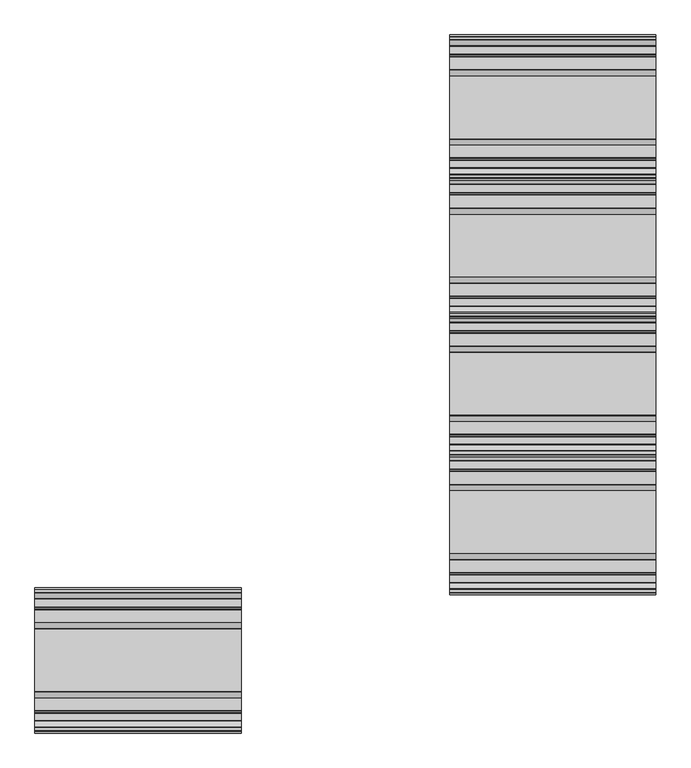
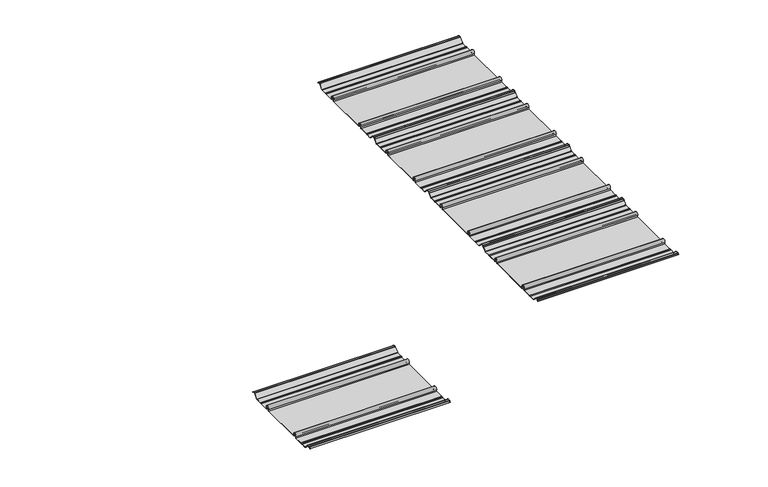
"""IFC4 building model written with IfcOpenShell, lengths in millimetres: proxy geometry, Xlath : Xlath."""

from ifc_helpers import new_model, si_unit, point, frame, frame_2d, origin, place, context, project, spatial, polyline, circle_curve, trimmed, segment, composite_curve, outline, extrude, source, transform, mapped, element, save


def generic_models_857969cb(model_context):
    return source(origin(), model_context, "Body", "SweptSolid", [
        extrude(outline(composite_curve([segment(polyline([(-1629.621536, 17.692427), (-1625.6, 13.8209287), (-1626.1628134, 13.2581153), (-1630.4173305, 17.3539026)]), True, "CONTINUOUS"), segment(trimmed(circle_curve(frame_2d((-1632.2934261, 15.4051)), 2.7051), [point((-1630.4173305, 17.3539026))], [point((-1632.2934261, 18.1102))], True, "CARTESIAN"), True, "CONTINUOUS"), segment(polyline([(-1632.2934261, 18.1102), (-1639.4817457, 18.1102)]), True, "CONTINUOUS"), segment(trimmed(circle_curve(frame_2d((-1639.4817457, 15.4051)), 2.7051), [point((-1639.4817457, 18.1102))], [point((-1641.4059623, 17.3064039))], True, "CARTESIAN"), True, "CONTINUOUS"), segment(polyline([(-1641.4059623, 17.3064039), (-1657.5741011, 0.9434226)]), True, "CONTINUOUS"), segment(trimmed(circle_curve(frame_2d((-1659.8325712, 3.175)), 3.175), [point((-1657.5741011, 0.9434226))], [point((-1659.8325712, 0.0))], False, "CARTESIAN"), True, "CONTINUOUS"), segment(polyline([(-1659.8325712, 0.0), (-1682.9486405, 0.0)]), True, "CONTINUOUS"), segment(trimmed(circle_curve(frame_2d((-1682.9486405, 3.175)), 3.175), [point((-1682.9486405, 0.0))], [point((-1684.9419174, 0.70367))], False, "CARTESIAN"), True, "CONTINUOUS"), segment(trimmed(circle_curve(frame_2d((-1686.9351943, -1.7676601)), 3.175), [point((-1684.9419174, 0.70367))], [point((-1688.9284712, 0.70367))], True, "CARTESIAN"), True, "CONTINUOUS"), segment(trimmed(circle_curve(frame_2d((-1690.9217481, 3.175)), 3.175), [point((-1688.9284712, 0.70367))], [point((-1690.9217481, 0.0))], False, "CARTESIAN"), True, "CONTINUOUS"), segment(polyline([(-1690.9217481, 0.0), (-1728.19972, 0.0)]), True, "CONTINUOUS"), segment(trimmed(circle_curve(frame_2d((-1728.19972, 3.3362305)), 3.3362305), [point((-1728.19972, 0.0))], [point((-1730.8911698, 5.3076593))], False, "CARTESIAN"), True, "CONTINUOUS"), segment(trimmed(circle_curve(frame_2d((-1737.4031627, 10.0775533)), 8.0720469), [point((-1730.8911698, 5.3076593))], [point((-1743.9151555, 5.3076593))], True, "CARTESIAN"), True, "CONTINUOUS"), segment(trimmed(circle_curve(frame_2d((-1746.6066054, 3.3362305)), 3.3362305), [point((-1743.9151555, 5.3076593))], [point((-1746.6066054, 0.0))], False, "CARTESIAN"), True, "CONTINUOUS"), segment(polyline([(-1746.6066054, 0.0), (-1931.6308946, 0.0)]), True, "CONTINUOUS"), segment(trimmed(circle_curve(frame_2d((-1931.6308946, 3.3362305)), 3.3362305), [point((-1931.6308946, 0.0))], [point((-1934.3223445, 5.3076593))], False, "CARTESIAN"), True, "CONTINUOUS"), segment(trimmed(circle_curve(frame_2d((-1940.8343373, 10.0775533)), 8.0720469), [point((-1934.3223445, 5.3076593))], [point((-1947.3463302, 5.3076593))], True, "CARTESIAN"), True, "CONTINUOUS"), segment(trimmed(circle_curve(frame_2d((-1950.03778, 3.3362305)), 3.3362305), [point((-1947.3463302, 5.3076593))], [point((-1950.03778, 0.0))], False, "CARTESIAN"), True, "CONTINUOUS"), segment(polyline([(-1950.03778, 0.0), (-1987.3157519, 0.0)]), True, "CONTINUOUS"), segment(trimmed(circle_curve(frame_2d((-1987.3157519, 3.175)), 3.175), [point((-1987.3157519, 0.0))], [point((-1989.3090288, 0.70367))], False, "CARTESIAN"), True, "CONTINUOUS"), segment(trimmed(circle_curve(frame_2d((-1991.3023057, -1.7676601)), 3.175), [point((-1989.3090288, 0.70367))], [point((-1993.2955826, 0.70367))], True, "CARTESIAN"), True, "CONTINUOUS"), segment(trimmed(circle_curve(frame_2d((-1995.2888595, 3.175)), 3.175), [point((-1993.2955826, 0.70367))], [point((-1995.2888595, 0.0))], False, "CARTESIAN"), True, "CONTINUOUS"), segment(polyline([(-1995.2888595, 0.0), (-2016.6183557, 0.0)]), True, "CONTINUOUS"), segment(trimmed(circle_curve(frame_2d((-2016.6183557, 3.175)), 3.175), [point((-2016.6183557, 0.0))], [point((-2018.8768259, 0.9434226))], False, "CARTESIAN"), True, "CONTINUOUS"), segment(polyline([(-2018.8768259, 0.9434226), (-2035.5092693, 17.7763039)]), True, "CONTINUOUS"), segment(trimmed(circle_curve(frame_2d((-2037.4334859, 15.875)), 2.7051), [point((-2035.5092693, 17.7763039))], [point((-2037.4334859, 18.5801))], True, "CARTESIAN"), True, "CONTINUOUS"), segment(polyline([(-2037.4334859, 18.5801), (-2045.9440739, 18.5801)]), True, "CONTINUOUS"), segment(trimmed(circle_curve(frame_2d((-2045.9440739, 15.875)), 2.7051), [point((-2045.9440739, 18.5801))], [point((-2047.8201695, 17.8238026))], True, "CARTESIAN"), True, "CONTINUOUS"), segment(polyline([(-2047.8201695, 17.8238026), (-2052.0855845, 13.717524), (-2052.6483979, 14.2803374), (-2048.615964, 18.162327)]), True, "CONTINUOUS"), segment(trimmed(circle_curve(frame_2d((-2046.4139739, 15.875)), 3.175), [point((-2048.615964, 18.162327))], [point((-2046.4139739, 19.05))], False, "CARTESIAN"), True, "CONTINUOUS"), segment(polyline([(-2046.4139739, 19.05), (-2037.4334859, 19.05)]), True, "CONTINUOUS"), segment(trimmed(circle_curve(frame_2d((-2037.4334859, 15.875)), 3.175), [point((-2037.4334859, 19.05))], [point((-2035.1750157, 18.1065774))], False, "CARTESIAN"), True, "CONTINUOUS"), segment(polyline([(-2035.1750157, 18.1065774), (-2018.5425723, 1.2736961)]), True, "CONTINUOUS"), segment(trimmed(circle_curve(frame_2d((-2016.6183557, 3.175)), 2.7051), [point((-2018.5425723, 1.2736961))], [point((-2016.6183557, 0.4699))], True, "CARTESIAN"), True, "CONTINUOUS"), segment(polyline([(-2016.6183557, 0.4699), (-1995.4514296, 0.4699)]), True, "CONTINUOUS"), segment(trimmed(circle_curve(frame_2d((-1995.4514296, 3.6449)), 3.175), [point((-1995.4514296, 0.4699))], [point((-1993.5198077, 1.1250862))], True, "CARTESIAN"), True, "CONTINUOUS"), segment(trimmed(circle_curve(frame_2d((-1991.3023057, -1.7676601)), 3.6449), [point((-1993.5198077, 1.1250862))], [point((-1989.0848037, 1.1250862))], False, "CARTESIAN"), True, "CONTINUOUS"), segment(trimmed(circle_curve(frame_2d((-1987.1531818, 3.6449)), 3.175), [point((-1989.0848037, 1.1250862))], [point((-1987.1531818, 0.4699))], True, "CARTESIAN"), True, "CONTINUOUS"), segment(polyline([(-1987.1531818, 0.4699), (-1950.03778, 0.4699)]), True, "CONTINUOUS"), segment(trimmed(circle_curve(frame_2d((-1950.03778, 3.3362305)), 2.8663305), [point((-1950.03778, 0.4699))], [point((-1947.7254144, 5.0299883))], True, "CARTESIAN"), True, "CONTINUOUS"), segment(trimmed(circle_curve(frame_2d((-1940.8343373, 10.0775533)), 8.5419469), [point((-1947.7254144, 5.0299883))], [point((-1933.9432603, 5.0299883))], False, "CARTESIAN"), True, "CONTINUOUS"), segment(trimmed(circle_curve(frame_2d((-1931.6308946, 3.3362305)), 2.8663305), [point((-1933.9432603, 5.0299883))], [point((-1931.6308946, 0.4699))], True, "CARTESIAN"), True, "CONTINUOUS"), segment(polyline([(-1931.6308946, 0.4699), (-1746.6066054, 0.4699)]), True, "CONTINUOUS"), segment(trimmed(circle_curve(frame_2d((-1746.6066054, 3.3362305)), 2.8663305), [point((-1746.6066054, 0.4699))], [point((-1744.2942397, 5.0299883))], True, "CARTESIAN"), True, "CONTINUOUS"), segment(trimmed(circle_curve(frame_2d((-1737.4031627, 10.0775533)), 8.5419469), [point((-1744.2942397, 5.0299883))], [point((-1730.5120856, 5.0299883))], False, "CARTESIAN"), True, "CONTINUOUS"), segment(trimmed(circle_curve(frame_2d((-1728.19972, 3.3362305)), 2.8663305), [point((-1730.5120856, 5.0299883))], [point((-1728.19972, 0.4699))], True, "CARTESIAN"), True, "CONTINUOUS"), segment(polyline([(-1728.19972, 0.4699), (-1691.0843182, 0.4699)]), True, "CONTINUOUS"), segment(trimmed(circle_curve(frame_2d((-1691.0843182, 3.6449)), 3.175), [point((-1691.0843182, 0.4699))], [point((-1689.1526963, 1.1250862))], True, "CARTESIAN"), True, "CONTINUOUS"), segment(trimmed(circle_curve(frame_2d((-1686.9351943, -1.7676601)), 3.6449), [point((-1689.1526963, 1.1250862))], [point((-1684.7176923, 1.1250862))], False, "CARTESIAN"), True, "CONTINUOUS"), segment(trimmed(circle_curve(frame_2d((-1682.7860704, 3.6449)), 3.175), [point((-1684.7176923, 1.1250862))], [point((-1682.7860704, 0.4699))], True, "CARTESIAN"), True, "CONTINUOUS"), segment(polyline([(-1682.7860704, 0.4699), (-1659.8325712, 0.4699)]), True, "CONTINUOUS"), segment(trimmed(circle_curve(frame_2d((-1659.8325712, 3.175)), 2.7051), [point((-1659.8325712, 0.4699))], [point((-1657.9083547, 1.2736961))], True, "CARTESIAN"), True, "CONTINUOUS"), segment(polyline([(-1657.9083547, 1.2736961), (-1641.7402159, 17.6366774)]), True, "CONTINUOUS"), segment(trimmed(circle_curve(frame_2d((-1639.4817457, 15.4051)), 3.175), [point((-1641.7402159, 17.6366774))], [point((-1639.4817457, 18.5801))], False, "CARTESIAN"), True, "CONTINUOUS"), segment(polyline([(-1639.4817457, 18.5801), (-1631.8235261, 18.5801)]), True, "CONTINUOUS"), segment(trimmed(circle_curve(frame_2d((-1631.8235261, 15.4051)), 3.175), [point((-1631.8235261, 18.5801))], [point((-1629.621536, 17.692427))], False, "CARTESIAN"), True, "CONTINUOUS")], self_intersect=False)), frame((0.0, 0.0, 0.0), z_axis=(1.0, 0.0, 0.0), x_axis=(0.0, 1.0, 0.0)), (0.0, 0.0, 1.0), 606.425),
        extrude(outline(composite_curve([segment(polyline([(-816.821536, 17.692427), (-812.8, 13.8209287), (-813.3628134, 13.2581153), (-817.6173305, 17.3539026)]), True, "CONTINUOUS"), segment(trimmed(circle_curve(frame_2d((-819.4934261, 15.4051)), 2.7051), [point((-817.6173305, 17.3539026))], [point((-819.4934261, 18.1102))], True, "CARTESIAN"), True, "CONTINUOUS"), segment(polyline([(-819.4934261, 18.1102), (-826.6817457, 18.1102)]), True, "CONTINUOUS"), segment(trimmed(circle_curve(frame_2d((-826.6817457, 15.4051)), 2.7051), [point((-826.6817457, 18.1102))], [point((-828.6059623, 17.3064039))], True, "CARTESIAN"), True, "CONTINUOUS"), segment(polyline([(-828.6059623, 17.3064039), (-844.7741011, 0.9434226)]), True, "CONTINUOUS"), segment(trimmed(circle_curve(frame_2d((-847.0325712, 3.175)), 3.175), [point((-844.7741011, 0.9434226))], [point((-847.0325712, 0.0))], False, "CARTESIAN"), True, "CONTINUOUS"), segment(polyline([(-847.0325712, 0.0), (-870.1486405, 0.0)]), True, "CONTINUOUS"), segment(trimmed(circle_curve(frame_2d((-870.1486405, 3.175)), 3.175), [point((-870.1486405, 0.0))], [point((-872.1419174, 0.70367))], False, "CARTESIAN"), True, "CONTINUOUS"), segment(trimmed(circle_curve(frame_2d((-874.1351943, -1.7676601)), 3.175), [point((-872.1419174, 0.70367))], [point((-876.1284712, 0.70367))], True, "CARTESIAN"), True, "CONTINUOUS"), segment(trimmed(circle_curve(frame_2d((-878.1217481, 3.175)), 3.175), [point((-876.1284712, 0.70367))], [point((-878.1217481, 0.0))], False, "CARTESIAN"), True, "CONTINUOUS"), segment(polyline([(-878.1217481, 0.0), (-915.39972, 0.0)]), True, "CONTINUOUS"), segment(trimmed(circle_curve(frame_2d((-915.39972, 3.3362305)), 3.3362305), [point((-915.39972, 0.0))], [point((-918.0911698, 5.3076593))], False, "CARTESIAN"), True, "CONTINUOUS"), segment(trimmed(circle_curve(frame_2d((-924.6031627, 10.0775533)), 8.0720469), [point((-918.0911698, 5.3076593))], [point((-931.1151555, 5.3076593))], True, "CARTESIAN"), True, "CONTINUOUS"), segment(trimmed(circle_curve(frame_2d((-933.8066054, 3.3362305)), 3.3362305), [point((-931.1151555, 5.3076593))], [point((-933.8066054, 0.0))], False, "CARTESIAN"), True, "CONTINUOUS"), segment(polyline([(-933.8066054, 0.0), (-1118.8308946, 0.0)]), True, "CONTINUOUS"), segment(trimmed(circle_curve(frame_2d((-1118.8308946, 3.3362305)), 3.3362305), [point((-1118.8308946, 0.0))], [point((-1121.5223445, 5.3076593))], False, "CARTESIAN"), True, "CONTINUOUS"), segment(trimmed(circle_curve(frame_2d((-1128.0343373, 10.0775533)), 8.0720469), [point((-1121.5223445, 5.3076593))], [point((-1134.5463302, 5.3076593))], True, "CARTESIAN"), True, "CONTINUOUS"), segment(trimmed(circle_curve(frame_2d((-1137.23778, 3.3362305)), 3.3362305), [point((-1134.5463302, 5.3076593))], [point((-1137.23778, 0.0))], False, "CARTESIAN"), True, "CONTINUOUS"), segment(polyline([(-1137.23778, 0.0), (-1174.5157519, 0.0)]), True, "CONTINUOUS"), segment(trimmed(circle_curve(frame_2d((-1174.5157519, 3.175)), 3.175), [point((-1174.5157519, 0.0))], [point((-1176.5090288, 0.70367))], False, "CARTESIAN"), True, "CONTINUOUS"), segment(trimmed(circle_curve(frame_2d((-1178.5023057, -1.7676601)), 3.175), [point((-1176.5090288, 0.70367))], [point((-1180.4955826, 0.70367))], True, "CARTESIAN"), True, "CONTINUOUS"), segment(trimmed(circle_curve(frame_2d((-1182.4888595, 3.175)), 3.175), [point((-1180.4955826, 0.70367))], [point((-1182.4888595, 0.0))], False, "CARTESIAN"), True, "CONTINUOUS"), segment(polyline([(-1182.4888595, 0.0), (-1203.8183557, 0.0)]), True, "CONTINUOUS"), segment(trimmed(circle_curve(frame_2d((-1203.8183557, 3.175)), 3.175), [point((-1203.8183557, 0.0))], [point((-1206.0768259, 0.9434226))], False, "CARTESIAN"), True, "CONTINUOUS"), segment(polyline([(-1206.0768259, 0.9434226), (-1222.7092693, 17.7763039)]), True, "CONTINUOUS"), segment(trimmed(circle_curve(frame_2d((-1224.6334859, 15.875)), 2.7051), [point((-1222.7092693, 17.7763039))], [point((-1224.6334859, 18.5801))], True, "CARTESIAN"), True, "CONTINUOUS"), segment(polyline([(-1224.6334859, 18.5801), (-1233.1440739, 18.5801)]), True, "CONTINUOUS"), segment(trimmed(circle_curve(frame_2d((-1233.1440739, 15.875)), 2.7051), [point((-1233.1440739, 18.5801))], [point((-1235.0201695, 17.8238026))], True, "CARTESIAN"), True, "CONTINUOUS"), segment(polyline([(-1235.0201695, 17.8238026), (-1239.2855845, 13.717524), (-1239.8483979, 14.2803374), (-1235.815964, 18.162327)]), True, "CONTINUOUS"), segment(trimmed(circle_curve(frame_2d((-1233.6139739, 15.875)), 3.175), [point((-1235.815964, 18.162327))], [point((-1233.6139739, 19.05))], False, "CARTESIAN"), True, "CONTINUOUS"), segment(polyline([(-1233.6139739, 19.05), (-1224.6334859, 19.05)]), True, "CONTINUOUS"), segment(trimmed(circle_curve(frame_2d((-1224.6334859, 15.875)), 3.175), [point((-1224.6334859, 19.05))], [point((-1222.3750157, 18.1065774))], False, "CARTESIAN"), True, "CONTINUOUS"), segment(polyline([(-1222.3750157, 18.1065774), (-1205.7425723, 1.2736961)]), True, "CONTINUOUS"), segment(trimmed(circle_curve(frame_2d((-1203.8183557, 3.175)), 2.7051), [point((-1205.7425723, 1.2736961))], [point((-1203.8183557, 0.4699))], True, "CARTESIAN"), True, "CONTINUOUS"), segment(polyline([(-1203.8183557, 0.4699), (-1182.6514296, 0.4699)]), True, "CONTINUOUS"), segment(trimmed(circle_curve(frame_2d((-1182.6514296, 3.6449)), 3.175), [point((-1182.6514296, 0.4699))], [point((-1180.7198077, 1.1250862))], True, "CARTESIAN"), True, "CONTINUOUS"), segment(trimmed(circle_curve(frame_2d((-1178.5023057, -1.7676601)), 3.6449), [point((-1180.7198077, 1.1250862))], [point((-1176.2848037, 1.1250862))], False, "CARTESIAN"), True, "CONTINUOUS"), segment(trimmed(circle_curve(frame_2d((-1174.3531818, 3.6449)), 3.175), [point((-1176.2848037, 1.1250862))], [point((-1174.3531818, 0.4699))], True, "CARTESIAN"), True, "CONTINUOUS"), segment(polyline([(-1174.3531818, 0.4699), (-1137.23778, 0.4699)]), True, "CONTINUOUS"), segment(trimmed(circle_curve(frame_2d((-1137.23778, 3.3362305)), 2.8663305), [point((-1137.23778, 0.4699))], [point((-1134.9254144, 5.0299883))], True, "CARTESIAN"), True, "CONTINUOUS"), segment(trimmed(circle_curve(frame_2d((-1128.0343373, 10.0775533)), 8.5419469), [point((-1134.9254144, 5.0299883))], [point((-1121.1432603, 5.0299883))], False, "CARTESIAN"), True, "CONTINUOUS"), segment(trimmed(circle_curve(frame_2d((-1118.8308946, 3.3362305)), 2.8663305), [point((-1121.1432603, 5.0299883))], [point((-1118.8308946, 0.4699))], True, "CARTESIAN"), True, "CONTINUOUS"), segment(polyline([(-1118.8308946, 0.4699), (-933.8066054, 0.4699)]), True, "CONTINUOUS"), segment(trimmed(circle_curve(frame_2d((-933.8066054, 3.3362305)), 2.8663305), [point((-933.8066054, 0.4699))], [point((-931.4942397, 5.0299883))], True, "CARTESIAN"), True, "CONTINUOUS"), segment(trimmed(circle_curve(frame_2d((-924.6031627, 10.0775533)), 8.5419469), [point((-931.4942397, 5.0299883))], [point((-917.7120856, 5.0299883))], False, "CARTESIAN"), True, "CONTINUOUS"), segment(trimmed(circle_curve(frame_2d((-915.39972, 3.3362305)), 2.8663305), [point((-917.7120856, 5.0299883))], [point((-915.39972, 0.4699))], True, "CARTESIAN"), True, "CONTINUOUS"), segment(polyline([(-915.39972, 0.4699), (-878.2843182, 0.4699)]), True, "CONTINUOUS"), segment(trimmed(circle_curve(frame_2d((-878.2843182, 3.6449)), 3.175), [point((-878.2843182, 0.4699))], [point((-876.3526963, 1.1250862))], True, "CARTESIAN"), True, "CONTINUOUS"), segment(trimmed(circle_curve(frame_2d((-874.1351943, -1.7676601)), 3.6449), [point((-876.3526963, 1.1250862))], [point((-871.9176923, 1.1250862))], False, "CARTESIAN"), True, "CONTINUOUS"), segment(trimmed(circle_curve(frame_2d((-869.9860704, 3.6449)), 3.175), [point((-871.9176923, 1.1250862))], [point((-869.9860704, 0.4699))], True, "CARTESIAN"), True, "CONTINUOUS"), segment(polyline([(-869.9860704, 0.4699), (-847.0325712, 0.4699)]), True, "CONTINUOUS"), segment(trimmed(circle_curve(frame_2d((-847.0325712, 3.175)), 2.7051), [point((-847.0325712, 0.4699))], [point((-845.1083547, 1.2736961))], True, "CARTESIAN"), True, "CONTINUOUS"), segment(polyline([(-845.1083547, 1.2736961), (-828.9402159, 17.6366774)]), True, "CONTINUOUS"), segment(trimmed(circle_curve(frame_2d((-826.6817457, 15.4051)), 3.175), [point((-828.9402159, 17.6366774))], [point((-826.6817457, 18.5801))], False, "CARTESIAN"), True, "CONTINUOUS"), segment(polyline([(-826.6817457, 18.5801), (-819.0235261, 18.5801)]), True, "CONTINUOUS"), segment(trimmed(circle_curve(frame_2d((-819.0235261, 15.4051)), 3.175), [point((-819.0235261, 18.5801))], [point((-816.821536, 17.692427))], False, "CARTESIAN"), True, "CONTINUOUS")], self_intersect=False)), frame((1219.2, 0.0, 0.0), z_axis=(1.0, 0.0, 0.0), x_axis=(0.0, 1.0, 0.0)), (0.0, 0.0, 1.0), 606.425),
        extrude(outline(composite_curve([segment(polyline([(-410.421536, 17.692427), (-406.4, 13.8209287), (-406.9628134, 13.2581153), (-411.2173305, 17.3539026)]), True, "CONTINUOUS"), segment(trimmed(circle_curve(frame_2d((-413.0934261, 15.4051)), 2.7051), [point((-411.2173305, 17.3539026))], [point((-413.0934261, 18.1102))], True, "CARTESIAN"), True, "CONTINUOUS"), segment(polyline([(-413.0934261, 18.1102), (-420.2817457, 18.1102)]), True, "CONTINUOUS"), segment(trimmed(circle_curve(frame_2d((-420.2817457, 15.4051)), 2.7051), [point((-420.2817457, 18.1102))], [point((-422.2059623, 17.3064039))], True, "CARTESIAN"), True, "CONTINUOUS"), segment(polyline([(-422.2059623, 17.3064039), (-438.3741011, 0.9434226)]), True, "CONTINUOUS"), segment(trimmed(circle_curve(frame_2d((-440.6325712, 3.175)), 3.175), [point((-438.3741011, 0.9434226))], [point((-440.6325712, 0.0))], False, "CARTESIAN"), True, "CONTINUOUS"), segment(polyline([(-440.6325712, 0.0), (-463.7486405, 0.0)]), True, "CONTINUOUS"), segment(trimmed(circle_curve(frame_2d((-463.7486405, 3.175)), 3.175), [point((-463.7486405, 0.0))], [point((-465.7419174, 0.70367))], False, "CARTESIAN"), True, "CONTINUOUS"), segment(trimmed(circle_curve(frame_2d((-467.7351943, -1.7676601)), 3.175), [point((-465.7419174, 0.70367))], [point((-469.7284712, 0.70367))], True, "CARTESIAN"), True, "CONTINUOUS"), segment(trimmed(circle_curve(frame_2d((-471.7217481, 3.175)), 3.175), [point((-469.7284712, 0.70367))], [point((-471.7217481, 0.0))], False, "CARTESIAN"), True, "CONTINUOUS"), segment(polyline([(-471.7217481, 0.0), (-508.99972, 0.0)]), True, "CONTINUOUS"), segment(trimmed(circle_curve(frame_2d((-508.99972, 3.3362305)), 3.3362305), [point((-508.99972, 0.0))], [point((-511.6911698, 5.3076593))], False, "CARTESIAN"), True, "CONTINUOUS"), segment(trimmed(circle_curve(frame_2d((-518.2031627, 10.0775533)), 8.0720469), [point((-511.6911698, 5.3076593))], [point((-524.7151555, 5.3076593))], True, "CARTESIAN"), True, "CONTINUOUS"), segment(trimmed(circle_curve(frame_2d((-527.4066054, 3.3362305)), 3.3362305), [point((-524.7151555, 5.3076593))], [point((-527.4066054, 0.0))], False, "CARTESIAN"), True, "CONTINUOUS"), segment(polyline([(-527.4066054, 0.0), (-712.4308946, 0.0)]), True, "CONTINUOUS"), segment(trimmed(circle_curve(frame_2d((-712.4308946, 3.3362305)), 3.3362305), [point((-712.4308946, 0.0))], [point((-715.1223445, 5.3076593))], False, "CARTESIAN"), True, "CONTINUOUS"), segment(trimmed(circle_curve(frame_2d((-721.6343373, 10.0775533)), 8.0720469), [point((-715.1223445, 5.3076593))], [point((-728.1463302, 5.3076593))], True, "CARTESIAN"), True, "CONTINUOUS"), segment(trimmed(circle_curve(frame_2d((-730.83778, 3.3362305)), 3.3362305), [point((-728.1463302, 5.3076593))], [point((-730.83778, 0.0))], False, "CARTESIAN"), True, "CONTINUOUS"), segment(polyline([(-730.83778, 0.0), (-768.1157519, 0.0)]), True, "CONTINUOUS"), segment(trimmed(circle_curve(frame_2d((-768.1157519, 3.175)), 3.175), [point((-768.1157519, 0.0))], [point((-770.1090288, 0.70367))], False, "CARTESIAN"), True, "CONTINUOUS"), segment(trimmed(circle_curve(frame_2d((-772.1023057, -1.7676601)), 3.175), [point((-770.1090288, 0.70367))], [point((-774.0955826, 0.70367))], True, "CARTESIAN"), True, "CONTINUOUS"), segment(trimmed(circle_curve(frame_2d((-776.0888595, 3.175)), 3.175), [point((-774.0955826, 0.70367))], [point((-776.0888595, 0.0))], False, "CARTESIAN"), True, "CONTINUOUS"), segment(polyline([(-776.0888595, 0.0), (-797.4183557, 0.0)]), True, "CONTINUOUS"), segment(trimmed(circle_curve(frame_2d((-797.4183557, 3.175)), 3.175), [point((-797.4183557, 0.0))], [point((-799.6768259, 0.9434226))], False, "CARTESIAN"), True, "CONTINUOUS"), segment(polyline([(-799.6768259, 0.9434226), (-816.3092693, 17.7763039)]), True, "CONTINUOUS"), segment(trimmed(circle_curve(frame_2d((-818.2334859, 15.875)), 2.7051), [point((-816.3092693, 17.7763039))], [point((-818.2334859, 18.5801))], True, "CARTESIAN"), True, "CONTINUOUS"), segment(polyline([(-818.2334859, 18.5801), (-826.7440739, 18.5801)]), True, "CONTINUOUS"), segment(trimmed(circle_curve(frame_2d((-826.7440739, 15.875)), 2.7051), [point((-826.7440739, 18.5801))], [point((-828.6201695, 17.8238026))], True, "CARTESIAN"), True, "CONTINUOUS"), segment(polyline([(-828.6201695, 17.8238026), (-832.8855845, 13.717524), (-833.4483979, 14.2803374), (-829.415964, 18.162327)]), True, "CONTINUOUS"), segment(trimmed(circle_curve(frame_2d((-827.2139739, 15.875)), 3.175), [point((-829.415964, 18.162327))], [point((-827.2139739, 19.05))], False, "CARTESIAN"), True, "CONTINUOUS"), segment(polyline([(-827.2139739, 19.05), (-818.2334859, 19.05)]), True, "CONTINUOUS"), segment(trimmed(circle_curve(frame_2d((-818.2334859, 15.875)), 3.175), [point((-818.2334859, 19.05))], [point((-815.9750157, 18.1065774))], False, "CARTESIAN"), True, "CONTINUOUS"), segment(polyline([(-815.9750157, 18.1065774), (-799.3425723, 1.2736961)]), True, "CONTINUOUS"), segment(trimmed(circle_curve(frame_2d((-797.4183557, 3.175)), 2.7051), [point((-799.3425723, 1.2736961))], [point((-797.4183557, 0.4699))], True, "CARTESIAN"), True, "CONTINUOUS"), segment(polyline([(-797.4183557, 0.4699), (-776.2514296, 0.4699)]), True, "CONTINUOUS"), segment(trimmed(circle_curve(frame_2d((-776.2514296, 3.6449)), 3.175), [point((-776.2514296, 0.4699))], [point((-774.3198077, 1.1250862))], True, "CARTESIAN"), True, "CONTINUOUS"), segment(trimmed(circle_curve(frame_2d((-772.1023057, -1.7676601)), 3.6449), [point((-774.3198077, 1.1250862))], [point((-769.8848037, 1.1250862))], False, "CARTESIAN"), True, "CONTINUOUS"), segment(trimmed(circle_curve(frame_2d((-767.9531818, 3.6449)), 3.175), [point((-769.8848037, 1.1250862))], [point((-767.9531818, 0.4699))], True, "CARTESIAN"), True, "CONTINUOUS"), segment(polyline([(-767.9531818, 0.4699), (-730.83778, 0.4699)]), True, "CONTINUOUS"), segment(trimmed(circle_curve(frame_2d((-730.83778, 3.3362305)), 2.8663305), [point((-730.83778, 0.4699))], [point((-728.5254144, 5.0299883))], True, "CARTESIAN"), True, "CONTINUOUS"), segment(trimmed(circle_curve(frame_2d((-721.6343373, 10.0775533)), 8.5419469), [point((-728.5254144, 5.0299883))], [point((-714.7432603, 5.0299883))], False, "CARTESIAN"), True, "CONTINUOUS"), segment(trimmed(circle_curve(frame_2d((-712.4308946, 3.3362305)), 2.8663305), [point((-714.7432603, 5.0299883))], [point((-712.4308946, 0.4699))], True, "CARTESIAN"), True, "CONTINUOUS"), segment(polyline([(-712.4308946, 0.4699), (-527.4066054, 0.4699)]), True, "CONTINUOUS"), segment(trimmed(circle_curve(frame_2d((-527.4066054, 3.3362305)), 2.8663305), [point((-527.4066054, 0.4699))], [point((-525.0942397, 5.0299883))], True, "CARTESIAN"), True, "CONTINUOUS"), segment(trimmed(circle_curve(frame_2d((-518.2031627, 10.0775533)), 8.5419469), [point((-525.0942397, 5.0299883))], [point((-511.3120856, 5.0299883))], False, "CARTESIAN"), True, "CONTINUOUS"), segment(trimmed(circle_curve(frame_2d((-508.99972, 3.3362305)), 2.8663305), [point((-511.3120856, 5.0299883))], [point((-508.99972, 0.4699))], True, "CARTESIAN"), True, "CONTINUOUS"), segment(polyline([(-508.99972, 0.4699), (-471.8843182, 0.4699)]), True, "CONTINUOUS"), segment(trimmed(circle_curve(frame_2d((-471.8843182, 3.6449)), 3.175), [point((-471.8843182, 0.4699))], [point((-469.9526963, 1.1250862))], True, "CARTESIAN"), True, "CONTINUOUS"), segment(trimmed(circle_curve(frame_2d((-467.7351943, -1.7676601)), 3.6449), [point((-469.9526963, 1.1250862))], [point((-465.5176923, 1.1250862))], False, "CARTESIAN"), True, "CONTINUOUS"), segment(trimmed(circle_curve(frame_2d((-463.5860704, 3.6449)), 3.175), [point((-465.5176923, 1.1250862))], [point((-463.5860704, 0.4699))], True, "CARTESIAN"), True, "CONTINUOUS"), segment(polyline([(-463.5860704, 0.4699), (-440.6325712, 0.4699)]), True, "CONTINUOUS"), segment(trimmed(circle_curve(frame_2d((-440.6325712, 3.175)), 2.7051), [point((-440.6325712, 0.4699))], [point((-438.7083547, 1.2736961))], True, "CARTESIAN"), True, "CONTINUOUS"), segment(polyline([(-438.7083547, 1.2736961), (-422.5402159, 17.6366774)]), True, "CONTINUOUS"), segment(trimmed(circle_curve(frame_2d((-420.2817457, 15.4051)), 3.175), [point((-422.5402159, 17.6366774))], [point((-420.2817457, 18.5801))], False, "CARTESIAN"), True, "CONTINUOUS"), segment(polyline([(-420.2817457, 18.5801), (-412.6235261, 18.5801)]), True, "CONTINUOUS"), segment(trimmed(circle_curve(frame_2d((-412.6235261, 15.4051)), 3.175), [point((-412.6235261, 18.5801))], [point((-410.421536, 17.692427))], False, "CARTESIAN"), True, "CONTINUOUS")], self_intersect=False)), frame((1219.2, 0.0, 0.0), z_axis=(1.0, 0.0, 0.0), x_axis=(0.0, 1.0, 0.0)), (0.0, 0.0, 1.0), 606.425),
        extrude(outline(composite_curve([segment(polyline([(-4.021536, 17.692427), (0.0, 13.8209287), (-0.5628134, 13.2581153), (-4.8173305, 17.3539026)]), True, "CONTINUOUS"), segment(trimmed(circle_curve(frame_2d((-6.6934261, 15.4051)), 2.7051), [point((-4.8173305, 17.3539026))], [point((-6.6934261, 18.1102))], True, "CARTESIAN"), True, "CONTINUOUS"), segment(polyline([(-6.6934261, 18.1102), (-13.8817457, 18.1102)]), True, "CONTINUOUS"), segment(trimmed(circle_curve(frame_2d((-13.8817457, 15.4051)), 2.7051), [point((-13.8817457, 18.1102))], [point((-15.8059623, 17.3064039))], True, "CARTESIAN"), True, "CONTINUOUS"), segment(polyline([(-15.8059623, 17.3064039), (-31.9741011, 0.9434226)]), True, "CONTINUOUS"), segment(trimmed(circle_curve(frame_2d((-34.2325712, 3.175)), 3.175), [point((-31.9741011, 0.9434226))], [point((-34.2325712, 0.0))], False, "CARTESIAN"), True, "CONTINUOUS"), segment(polyline([(-34.2325712, 0.0), (-57.3486405, 0.0)]), True, "CONTINUOUS"), segment(trimmed(circle_curve(frame_2d((-57.3486405, 3.175)), 3.175), [point((-57.3486405, 0.0))], [point((-59.3419174, 0.70367))], False, "CARTESIAN"), True, "CONTINUOUS"), segment(trimmed(circle_curve(frame_2d((-61.3351943, -1.7676601)), 3.175), [point((-59.3419174, 0.70367))], [point((-63.3284712, 0.70367))], True, "CARTESIAN"), True, "CONTINUOUS"), segment(trimmed(circle_curve(frame_2d((-65.3217481, 3.175)), 3.175), [point((-63.3284712, 0.70367))], [point((-65.3217481, 0.0))], False, "CARTESIAN"), True, "CONTINUOUS"), segment(polyline([(-65.3217481, 0.0), (-102.59972, 0.0)]), True, "CONTINUOUS"), segment(trimmed(circle_curve(frame_2d((-102.59972, 3.3362305)), 3.3362305), [point((-102.59972, 0.0))], [point((-105.2911698, 5.3076593))], False, "CARTESIAN"), True, "CONTINUOUS"), segment(trimmed(circle_curve(frame_2d((-111.8031627, 10.0775533)), 8.0720469), [point((-105.2911698, 5.3076593))], [point((-118.3151555, 5.3076593))], True, "CARTESIAN"), True, "CONTINUOUS"), segment(trimmed(circle_curve(frame_2d((-121.0066054, 3.3362305)), 3.3362305), [point((-118.3151555, 5.3076593))], [point((-121.0066054, 0.0))], False, "CARTESIAN"), True, "CONTINUOUS"), segment(polyline([(-121.0066054, 0.0), (-306.0308946, 0.0)]), True, "CONTINUOUS"), segment(trimmed(circle_curve(frame_2d((-306.0308946, 3.3362305)), 3.3362305), [point((-306.0308946, 0.0))], [point((-308.7223445, 5.3076593))], False, "CARTESIAN"), True, "CONTINUOUS"), segment(trimmed(circle_curve(frame_2d((-315.2343373, 10.0775533)), 8.0720469), [point((-308.7223445, 5.3076593))], [point((-321.7463302, 5.3076593))], True, "CARTESIAN"), True, "CONTINUOUS"), segment(trimmed(circle_curve(frame_2d((-324.43778, 3.3362305)), 3.3362305), [point((-321.7463302, 5.3076593))], [point((-324.43778, 0.0))], False, "CARTESIAN"), True, "CONTINUOUS"), segment(polyline([(-324.43778, 0.0), (-361.7157519, 0.0)]), True, "CONTINUOUS"), segment(trimmed(circle_curve(frame_2d((-361.7157519, 3.175)), 3.175), [point((-361.7157519, 0.0))], [point((-363.7090288, 0.70367))], False, "CARTESIAN"), True, "CONTINUOUS"), segment(trimmed(circle_curve(frame_2d((-365.7023057, -1.7676601)), 3.175), [point((-363.7090288, 0.70367))], [point((-367.6955826, 0.70367))], True, "CARTESIAN"), True, "CONTINUOUS"), segment(trimmed(circle_curve(frame_2d((-369.6888595, 3.175)), 3.175), [point((-367.6955826, 0.70367))], [point((-369.6888595, 0.0))], False, "CARTESIAN"), True, "CONTINUOUS"), segment(polyline([(-369.6888595, 0.0), (-391.0183557, 0.0)]), True, "CONTINUOUS"), segment(trimmed(circle_curve(frame_2d((-391.0183557, 3.175)), 3.175), [point((-391.0183557, 0.0))], [point((-393.2768259, 0.9434226))], False, "CARTESIAN"), True, "CONTINUOUS"), segment(polyline([(-393.2768259, 0.9434226), (-409.9092693, 17.7763039)]), True, "CONTINUOUS"), segment(trimmed(circle_curve(frame_2d((-411.8334859, 15.875)), 2.7051), [point((-409.9092693, 17.7763039))], [point((-411.8334859, 18.5801))], True, "CARTESIAN"), True, "CONTINUOUS"), segment(polyline([(-411.8334859, 18.5801), (-420.3440739, 18.5801)]), True, "CONTINUOUS"), segment(trimmed(circle_curve(frame_2d((-420.3440739, 15.875)), 2.7051), [point((-420.3440739, 18.5801))], [point((-422.2201695, 17.8238026))], True, "CARTESIAN"), True, "CONTINUOUS"), segment(polyline([(-422.2201695, 17.8238026), (-426.4855845, 13.717524), (-427.0483979, 14.2803374), (-423.015964, 18.162327)]), True, "CONTINUOUS"), segment(trimmed(circle_curve(frame_2d((-420.8139739, 15.875)), 3.175), [point((-423.015964, 18.162327))], [point((-420.8139739, 19.05))], False, "CARTESIAN"), True, "CONTINUOUS"), segment(polyline([(-420.8139739, 19.05), (-411.8334859, 19.05)]), True, "CONTINUOUS"), segment(trimmed(circle_curve(frame_2d((-411.8334859, 15.875)), 3.175), [point((-411.8334859, 19.05))], [point((-409.5750157, 18.1065774))], False, "CARTESIAN"), True, "CONTINUOUS"), segment(polyline([(-409.5750157, 18.1065774), (-392.9425723, 1.2736961)]), True, "CONTINUOUS"), segment(trimmed(circle_curve(frame_2d((-391.0183557, 3.175)), 2.7051), [point((-392.9425723, 1.2736961))], [point((-391.0183557, 0.4699))], True, "CARTESIAN"), True, "CONTINUOUS"), segment(polyline([(-391.0183557, 0.4699), (-369.8514296, 0.4699)]), True, "CONTINUOUS"), segment(trimmed(circle_curve(frame_2d((-369.8514296, 3.6449)), 3.175), [point((-369.8514296, 0.4699))], [point((-367.9198077, 1.1250862))], True, "CARTESIAN"), True, "CONTINUOUS"), segment(trimmed(circle_curve(frame_2d((-365.7023057, -1.7676601)), 3.6449), [point((-367.9198077, 1.1250862))], [point((-363.4848037, 1.1250862))], False, "CARTESIAN"), True, "CONTINUOUS"), segment(trimmed(circle_curve(frame_2d((-361.5531818, 3.6449)), 3.175), [point((-363.4848037, 1.1250862))], [point((-361.5531818, 0.4699))], True, "CARTESIAN"), True, "CONTINUOUS"), segment(polyline([(-361.5531818, 0.4699), (-324.43778, 0.4699)]), True, "CONTINUOUS"), segment(trimmed(circle_curve(frame_2d((-324.43778, 3.3362305)), 2.8663305), [point((-324.43778, 0.4699))], [point((-322.1254144, 5.0299883))], True, "CARTESIAN"), True, "CONTINUOUS"), segment(trimmed(circle_curve(frame_2d((-315.2343373, 10.0775533)), 8.5419469), [point((-322.1254144, 5.0299883))], [point((-308.3432603, 5.0299883))], False, "CARTESIAN"), True, "CONTINUOUS"), segment(trimmed(circle_curve(frame_2d((-306.0308946, 3.3362305)), 2.8663305), [point((-308.3432603, 5.0299883))], [point((-306.0308946, 0.4699))], True, "CARTESIAN"), True, "CONTINUOUS"), segment(polyline([(-306.0308946, 0.4699), (-121.0066054, 0.4699)]), True, "CONTINUOUS"), segment(trimmed(circle_curve(frame_2d((-121.0066054, 3.3362305)), 2.8663305), [point((-121.0066054, 0.4699))], [point((-118.6942397, 5.0299883))], True, "CARTESIAN"), True, "CONTINUOUS"), segment(trimmed(circle_curve(frame_2d((-111.8031627, 10.0775533)), 8.5419469), [point((-118.6942397, 5.0299883))], [point((-104.9120856, 5.0299883))], False, "CARTESIAN"), True, "CONTINUOUS"), segment(trimmed(circle_curve(frame_2d((-102.59972, 3.3362305)), 2.8663305), [point((-104.9120856, 5.0299883))], [point((-102.59972, 0.4699))], True, "CARTESIAN"), True, "CONTINUOUS"), segment(polyline([(-102.59972, 0.4699), (-65.4843182, 0.4699)]), True, "CONTINUOUS"), segment(trimmed(circle_curve(frame_2d((-65.4843182, 3.6449)), 3.175), [point((-65.4843182, 0.4699))], [point((-63.5526963, 1.1250862))], True, "CARTESIAN"), True, "CONTINUOUS"), segment(trimmed(circle_curve(frame_2d((-61.3351943, -1.7676601)), 3.6449), [point((-63.5526963, 1.1250862))], [point((-59.1176923, 1.1250862))], False, "CARTESIAN"), True, "CONTINUOUS"), segment(trimmed(circle_curve(frame_2d((-57.1860704, 3.6449)), 3.175), [point((-59.1176923, 1.1250862))], [point((-57.1860704, 0.4699))], True, "CARTESIAN"), True, "CONTINUOUS"), segment(polyline([(-57.1860704, 0.4699), (-34.2325712, 0.4699)]), True, "CONTINUOUS"), segment(trimmed(circle_curve(frame_2d((-34.2325712, 3.175)), 2.7051), [point((-34.2325712, 0.4699))], [point((-32.3083547, 1.2736961))], True, "CARTESIAN"), True, "CONTINUOUS"), segment(polyline([(-32.3083547, 1.2736961), (-16.1402159, 17.6366774)]), True, "CONTINUOUS"), segment(trimmed(circle_curve(frame_2d((-13.8817457, 15.4051)), 3.175), [point((-16.1402159, 17.6366774))], [point((-13.8817457, 18.5801))], False, "CARTESIAN"), True, "CONTINUOUS"), segment(polyline([(-13.8817457, 18.5801), (-6.2235261, 18.5801)]), True, "CONTINUOUS"), segment(trimmed(circle_curve(frame_2d((-6.2235261, 15.4051)), 3.175), [point((-6.2235261, 18.5801))], [point((-4.021536, 17.692427))], False, "CARTESIAN"), True, "CONTINUOUS")], self_intersect=False)), frame((1219.2, 0.0, 0.0), z_axis=(1.0, 0.0, 0.0), x_axis=(0.0, 1.0, 0.0)), (0.0, 0.0, 1.0), 606.425),
        extrude(outline(composite_curve([segment(polyline([(-1223.221536, 17.692427), (-1219.2, 13.8209287), (-1219.7628134, 13.2581153), (-1224.0173305, 17.3539026)]), True, "CONTINUOUS"), segment(trimmed(circle_curve(frame_2d((-1225.8934261, 15.4051)), 2.7051), [point((-1224.0173305, 17.3539026))], [point((-1225.8934261, 18.1102))], True, "CARTESIAN"), True, "CONTINUOUS"), segment(polyline([(-1225.8934261, 18.1102), (-1233.0817457, 18.1102)]), True, "CONTINUOUS"), segment(trimmed(circle_curve(frame_2d((-1233.0817457, 15.4051)), 2.7051), [point((-1233.0817457, 18.1102))], [point((-1235.0059623, 17.3064039))], True, "CARTESIAN"), True, "CONTINUOUS"), segment(polyline([(-1235.0059623, 17.3064039), (-1251.1741011, 0.9434226)]), True, "CONTINUOUS"), segment(trimmed(circle_curve(frame_2d((-1253.4325712, 3.175)), 3.175), [point((-1251.1741011, 0.9434226))], [point((-1253.4325712, 0.0))], False, "CARTESIAN"), True, "CONTINUOUS"), segment(polyline([(-1253.4325712, 0.0), (-1276.5486405, 0.0)]), True, "CONTINUOUS"), segment(trimmed(circle_curve(frame_2d((-1276.5486405, 3.175)), 3.175), [point((-1276.5486405, 0.0))], [point((-1278.5419174, 0.70367))], False, "CARTESIAN"), True, "CONTINUOUS"), segment(trimmed(circle_curve(frame_2d((-1280.5351943, -1.7676601)), 3.175), [point((-1278.5419174, 0.70367))], [point((-1282.5284712, 0.70367))], True, "CARTESIAN"), True, "CONTINUOUS"), segment(trimmed(circle_curve(frame_2d((-1284.5217481, 3.175)), 3.175), [point((-1282.5284712, 0.70367))], [point((-1284.5217481, 0.0))], False, "CARTESIAN"), True, "CONTINUOUS"), segment(polyline([(-1284.5217481, 0.0), (-1321.79972, 0.0)]), True, "CONTINUOUS"), segment(trimmed(circle_curve(frame_2d((-1321.79972, 3.3362305)), 3.3362305), [point((-1321.79972, 0.0))], [point((-1324.4911698, 5.3076593))], False, "CARTESIAN"), True, "CONTINUOUS"), segment(trimmed(circle_curve(frame_2d((-1331.0031627, 10.0775533)), 8.0720469), [point((-1324.4911698, 5.3076593))], [point((-1337.5151555, 5.3076593))], True, "CARTESIAN"), True, "CONTINUOUS"), segment(trimmed(circle_curve(frame_2d((-1340.2066054, 3.3362305)), 3.3362305), [point((-1337.5151555, 5.3076593))], [point((-1340.2066054, 0.0))], False, "CARTESIAN"), True, "CONTINUOUS"), segment(polyline([(-1340.2066054, 0.0), (-1525.2308946, 0.0)]), True, "CONTINUOUS"), segment(trimmed(circle_curve(frame_2d((-1525.2308946, 3.3362305)), 3.3362305), [point((-1525.2308946, 0.0))], [point((-1527.9223445, 5.3076593))], False, "CARTESIAN"), True, "CONTINUOUS"), segment(trimmed(circle_curve(frame_2d((-1534.4343373, 10.0775533)), 8.0720469), [point((-1527.9223445, 5.3076593))], [point((-1540.9463302, 5.3076593))], True, "CARTESIAN"), True, "CONTINUOUS"), segment(trimmed(circle_curve(frame_2d((-1543.63778, 3.3362305)), 3.3362305), [point((-1540.9463302, 5.3076593))], [point((-1543.63778, 0.0))], False, "CARTESIAN"), True, "CONTINUOUS"), segment(polyline([(-1543.63778, 0.0), (-1580.9157519, 0.0)]), True, "CONTINUOUS"), segment(trimmed(circle_curve(frame_2d((-1580.9157519, 3.175)), 3.175), [point((-1580.9157519, 0.0))], [point((-1582.9090288, 0.70367))], False, "CARTESIAN"), True, "CONTINUOUS"), segment(trimmed(circle_curve(frame_2d((-1584.9023057, -1.7676601)), 3.175), [point((-1582.9090288, 0.70367))], [point((-1586.8955826, 0.70367))], True, "CARTESIAN"), True, "CONTINUOUS"), segment(trimmed(circle_curve(frame_2d((-1588.8888595, 3.175)), 3.175), [point((-1586.8955826, 0.70367))], [point((-1588.8888595, 0.0))], False, "CARTESIAN"), True, "CONTINUOUS"), segment(polyline([(-1588.8888595, 0.0), (-1610.2183557, 0.0)]), True, "CONTINUOUS"), segment(trimmed(circle_curve(frame_2d((-1610.2183557, 3.175)), 3.175), [point((-1610.2183557, 0.0))], [point((-1612.4768259, 0.9434226))], False, "CARTESIAN"), True, "CONTINUOUS"), segment(polyline([(-1612.4768259, 0.9434226), (-1629.1092693, 17.7763039)]), True, "CONTINUOUS"), segment(trimmed(circle_curve(frame_2d((-1631.0334859, 15.875)), 2.7051), [point((-1629.1092693, 17.7763039))], [point((-1631.0334859, 18.5801))], True, "CARTESIAN"), True, "CONTINUOUS"), segment(polyline([(-1631.0334859, 18.5801), (-1639.5440739, 18.5801)]), True, "CONTINUOUS"), segment(trimmed(circle_curve(frame_2d((-1639.5440739, 15.875)), 2.7051), [point((-1639.5440739, 18.5801))], [point((-1641.4201695, 17.8238026))], True, "CARTESIAN"), True, "CONTINUOUS"), segment(polyline([(-1641.4201695, 17.8238026), (-1645.6855845, 13.717524), (-1646.2483979, 14.2803374), (-1642.215964, 18.162327)]), True, "CONTINUOUS"), segment(trimmed(circle_curve(frame_2d((-1640.0139739, 15.875)), 3.175), [point((-1642.215964, 18.162327))], [point((-1640.0139739, 19.05))], False, "CARTESIAN"), True, "CONTINUOUS"), segment(polyline([(-1640.0139739, 19.05), (-1631.0334859, 19.05)]), True, "CONTINUOUS"), segment(trimmed(circle_curve(frame_2d((-1631.0334859, 15.875)), 3.175), [point((-1631.0334859, 19.05))], [point((-1628.7750157, 18.1065774))], False, "CARTESIAN"), True, "CONTINUOUS"), segment(polyline([(-1628.7750157, 18.1065774), (-1612.1425723, 1.2736961)]), True, "CONTINUOUS"), segment(trimmed(circle_curve(frame_2d((-1610.2183557, 3.175)), 2.7051), [point((-1612.1425723, 1.2736961))], [point((-1610.2183557, 0.4699))], True, "CARTESIAN"), True, "CONTINUOUS"), segment(polyline([(-1610.2183557, 0.4699), (-1589.0514296, 0.4699)]), True, "CONTINUOUS"), segment(trimmed(circle_curve(frame_2d((-1589.0514296, 3.6449)), 3.175), [point((-1589.0514296, 0.4699))], [point((-1587.1198077, 1.1250862))], True, "CARTESIAN"), True, "CONTINUOUS"), segment(trimmed(circle_curve(frame_2d((-1584.9023057, -1.7676601)), 3.6449), [point((-1587.1198077, 1.1250862))], [point((-1582.6848037, 1.1250862))], False, "CARTESIAN"), True, "CONTINUOUS"), segment(trimmed(circle_curve(frame_2d((-1580.7531818, 3.6449)), 3.175), [point((-1582.6848037, 1.1250862))], [point((-1580.7531818, 0.4699))], True, "CARTESIAN"), True, "CONTINUOUS"), segment(polyline([(-1580.7531818, 0.4699), (-1543.63778, 0.4699)]), True, "CONTINUOUS"), segment(trimmed(circle_curve(frame_2d((-1543.63778, 3.3362305)), 2.8663305), [point((-1543.63778, 0.4699))], [point((-1541.3254144, 5.0299883))], True, "CARTESIAN"), True, "CONTINUOUS"), segment(trimmed(circle_curve(frame_2d((-1534.4343373, 10.0775533)), 8.5419469), [point((-1541.3254144, 5.0299883))], [point((-1527.5432603, 5.0299883))], False, "CARTESIAN"), True, "CONTINUOUS"), segment(trimmed(circle_curve(frame_2d((-1525.2308946, 3.3362305)), 2.8663305), [point((-1527.5432603, 5.0299883))], [point((-1525.2308946, 0.4699))], True, "CARTESIAN"), True, "CONTINUOUS"), segment(polyline([(-1525.2308946, 0.4699), (-1340.2066054, 0.4699)]), True, "CONTINUOUS"), segment(trimmed(circle_curve(frame_2d((-1340.2066054, 3.3362305)), 2.8663305), [point((-1340.2066054, 0.4699))], [point((-1337.8942397, 5.0299883))], True, "CARTESIAN"), True, "CONTINUOUS"), segment(trimmed(circle_curve(frame_2d((-1331.0031627, 10.0775533)), 8.5419469), [point((-1337.8942397, 5.0299883))], [point((-1324.1120856, 5.0299883))], False, "CARTESIAN"), True, "CONTINUOUS"), segment(trimmed(circle_curve(frame_2d((-1321.79972, 3.3362305)), 2.8663305), [point((-1324.1120856, 5.0299883))], [point((-1321.79972, 0.4699))], True, "CARTESIAN"), True, "CONTINUOUS"), segment(polyline([(-1321.79972, 0.4699), (-1284.6843182, 0.4699)]), True, "CONTINUOUS"), segment(trimmed(circle_curve(frame_2d((-1284.6843182, 3.6449)), 3.175), [point((-1284.6843182, 0.4699))], [point((-1282.7526963, 1.1250862))], True, "CARTESIAN"), True, "CONTINUOUS"), segment(trimmed(circle_curve(frame_2d((-1280.5351943, -1.7676601)), 3.6449), [point((-1282.7526963, 1.1250862))], [point((-1278.3176923, 1.1250862))], False, "CARTESIAN"), True, "CONTINUOUS"), segment(trimmed(circle_curve(frame_2d((-1276.3860704, 3.6449)), 3.175), [point((-1278.3176923, 1.1250862))], [point((-1276.3860704, 0.4699))], True, "CARTESIAN"), True, "CONTINUOUS"), segment(polyline([(-1276.3860704, 0.4699), (-1253.4325712, 0.4699)]), True, "CONTINUOUS"), segment(trimmed(circle_curve(frame_2d((-1253.4325712, 3.175)), 2.7051), [point((-1253.4325712, 0.4699))], [point((-1251.5083547, 1.2736961))], True, "CARTESIAN"), True, "CONTINUOUS"), segment(polyline([(-1251.5083547, 1.2736961), (-1235.3402159, 17.6366774)]), True, "CONTINUOUS"), segment(trimmed(circle_curve(frame_2d((-1233.0817457, 15.4051)), 3.175), [point((-1235.3402159, 17.6366774))], [point((-1233.0817457, 18.5801))], False, "CARTESIAN"), True, "CONTINUOUS"), segment(polyline([(-1233.0817457, 18.5801), (-1225.4235261, 18.5801)]), True, "CONTINUOUS"), segment(trimmed(circle_curve(frame_2d((-1225.4235261, 15.4051)), 3.175), [point((-1225.4235261, 18.5801))], [point((-1223.221536, 17.692427))], False, "CARTESIAN"), True, "CONTINUOUS")], self_intersect=False)), frame((1219.2, 0.0, 0.0), z_axis=(1.0, 0.0, 0.0), x_axis=(0.0, 1.0, 0.0)), (0.0, 0.0, 1.0), 606.425),
    ])


if __name__ == "__main__":
    model = new_model("IFC4")
    model_context = context("Model", 3, world=origin())
    ifc_project = project(units=[si_unit("LENGTHUNIT", "METRE", prefix="MILLI")], contexts=[model_context])
    site = spatial("IfcSite", under=ifc_project)
    building = spatial("IfcBuilding", under=site)
    placement = place(None, origin())
    generic_models_shape = generic_models_857969cb(model_context)
    element("IfcBuildingElementProxy", 1, Name="Xlath : Xlath", ObjectType="Xlath : Xlath", at=placement, inside=building, context=model_context, shape_type="MappedRepresentation", body=[
        mapped(generic_models_shape, transform((0.0, 0.0, 0.0), x_axis=(1.0, 0.0, 0.0), y_axis=(0.0, 1.0, 0.0), z_axis=(0.0, 0.0, 1.0))),
    ])
    save(model, "model.ifc")
